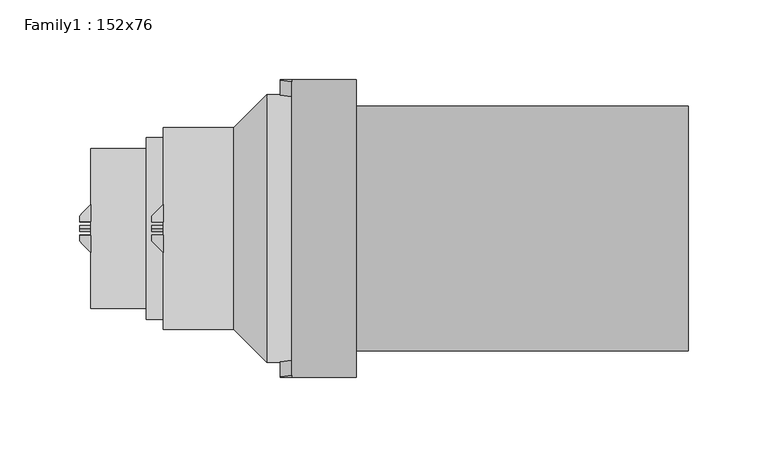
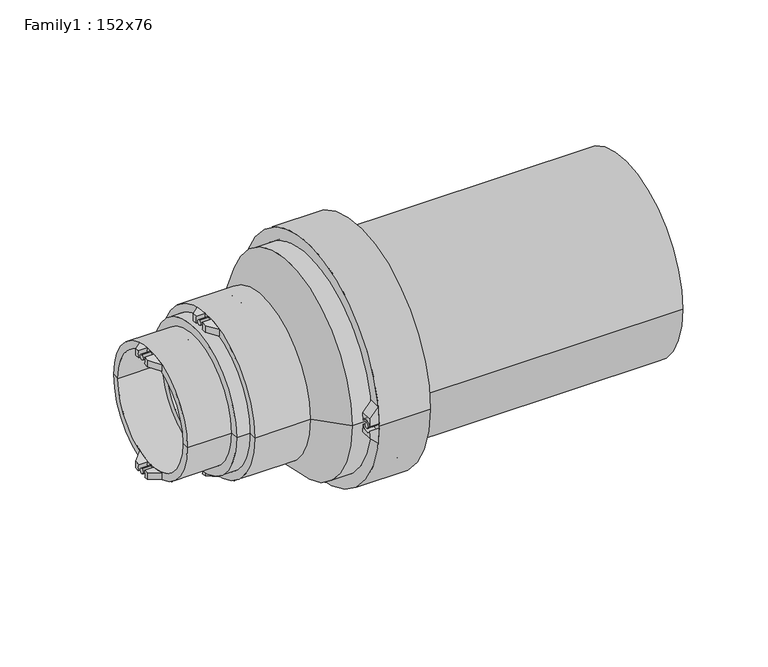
"""IFC4 building model written with IfcOpenShell, lengths in millimetres: proxy geometry, Family1 : 152x76."""

from ifc_helpers import new_model, si_unit, point, frame, frame_2d, origin, place, context, project, spatial, polyline, circle_curve, ellipse_curve, trimmed, segment, composite_curve, outline, extrude, source, transform, mapped, element, save
from ifc_brep_helpers import plane_surface, cylinder_surface, revolved_surface, advanced_brep


def family1_152x76_459f450e(model_context):
    return source(origin(), model_context, "Body", "SolidModel", [
        advanced_brep(
        [(-382.9, 4.082855, 44.663775), (-382.9, 4.3221448, 50.063775), (-382.9, 7.94, 49.6187354), (-382.9, 7.94, 44.1415779), (-375.8, 15.0, 47.9589668), (-375.8, 4.3221448, 50.063775), (-375.8, 4.082855, 44.663775), (-375.8, 15.0, 42.2672746)],
        [
            (0, 1, circle_curve(frame((-382.9, 0.0, 47.55), z_axis=(1.0, 0.0, 0.0), x_axis=(0.0, 0.0, -1.0)), 5.0)),
            (1, 2, circle_curve(frame((-382.9, 0.0, 0.0), z_axis=(-1.0, 0.0, 0.0), x_axis=(0.0, 0.0, -1.0)), 50.25)),
            (2, 3),
            (3, 0, circle_curve(frame((-382.9, 0.0, 0.0), z_axis=(1.0, 0.0, 0.0), x_axis=(0.0, 0.0, -1.0)), 44.85)),
            (4, 5, circle_curve(frame((-375.8, 0.0, 0.0), z_axis=(1.0, 0.0, 0.0), x_axis=(0.0, 0.0, -1.0)), 50.25)),
            (5, 6, circle_curve(frame((-375.8, 0.0, 47.55), z_axis=(-1.0, 0.0, 0.0), x_axis=(0.0, 0.0, -1.0)), 5.0)),
            (6, 7, circle_curve(frame((-375.8, 0.0, 0.0), z_axis=(-1.0, 0.0, 0.0), x_axis=(0.0, 0.0, -1.0)), 44.85)),
            (7, 4),
            (6, 0),
            (3, 7, ellipse_curve(frame((-390.8849858, 0.0, 0.0), z_axis=(-0.7051064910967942, 0.709101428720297, 0.0), x_axis=(0.7091014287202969, 0.7051064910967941, 0.0)), 63.6074133, 44.85)),
            (4, 2, ellipse_curve(frame((-390.8849858, 0.0, 0.0), z_axis=(0.7051064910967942, -0.709101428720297, 0.0), x_axis=(-0.7091014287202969, -0.7051064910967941, 0.0)), 71.265831, 50.25)),
            (1, 5),
        ],
        [
            plane_surface(frame((-382.9, 15.0, 47.9589668), z_axis=(-1.0, 0.0, 0.0), x_axis=(0.0, 0.0, -1.0))),
            plane_surface(frame((-375.8, 15.0, 47.9589668), z_axis=(1.0, 0.0, 0.0), x_axis=(0.0, 0.0, 1.0))),
            revolved_surface(polyline([(-345.7808781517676, 0.0, -44.85), (-435.9890934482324, 0.0, -44.85)]), (-375.8, 0.0, 0.0), (1.0, 0.0, 0.0)),
            cylinder_surface(frame((-375.8, 0.0, 0.0), z_axis=(-1.0, 0.0, 0.0), x_axis=(0.0, 0.0, -1.0)), 50.25),
            revolved_surface(polyline([(-382.9, 0.0, 42.55), (-375.8, 0.0, 42.55)]), (-375.8, 0.0, 47.55), (-1.0, 0.0, 0.0)),
            plane_surface(frame((-375.8, 15.0, -50.25), z_axis=(-0.7051064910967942, 0.709101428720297, 0.0), x_axis=(0.0, 0.0, 1.0))),
        ],
        [
            (0, [[1, 2, 3, 4]]),
            (1, [[5, 6, 7, 8]]),
            (2, [[-7, 9, -4, 10]]),
            (3, [[-5, 11, -2, 12]]),
            (4, [[-1, -9, -6, -12]]),
            (5, [[-3, -11, -8, -10]]),
        ],
    ),
        advanced_brep(
        [(-382.9, -4.3221448, 50.063775), (-382.9, -4.082855, 44.663775), (-382.9, -7.94, 44.1415779), (-382.9, -7.94, 49.6187354), (-375.8, -4.3221448, 50.063775), (-375.8, -15.0, 47.9589668), (-375.8, -15.0, 42.2672746), (-375.8, -4.082855, 44.663775)],
        [
            (0, 1, circle_curve(frame((-382.9, 0.0, 47.55), z_axis=(1.0, 0.0, 0.0), x_axis=(0.0, 0.0, -1.0)), 5.0)),
            (1, 2, circle_curve(frame((-382.9, 0.0, 0.0), z_axis=(1.0, 0.0, 0.0), x_axis=(0.0, 0.0, -1.0)), 44.85)),
            (2, 3),
            (3, 0, circle_curve(frame((-382.9, 0.0, 0.0), z_axis=(-1.0, 0.0, 0.0), x_axis=(0.0, 0.0, -1.0)), 50.25)),
            (4, 5, circle_curve(frame((-375.8, 0.0, 0.0), z_axis=(1.0, 0.0, 0.0), x_axis=(0.0, 0.0, -1.0)), 50.25)),
            (5, 6),
            (6, 7, circle_curve(frame((-375.8, 0.0, 0.0), z_axis=(-1.0, 0.0, 0.0), x_axis=(0.0, 0.0, -1.0)), 44.85)),
            (7, 4, circle_curve(frame((-375.8, 0.0, 47.55), z_axis=(-1.0, 0.0, 0.0), x_axis=(0.0, 0.0, -1.0)), 5.0)),
            (6, 2, ellipse_curve(frame((-390.8849858, 0.0, 0.0), z_axis=(-0.7051064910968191, -0.7091014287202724, 0.0), x_axis=(0.709101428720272, -0.7051064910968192, 0.0)), 63.6074133, 44.85)),
            (1, 7),
            (4, 0),
            (3, 5, ellipse_curve(frame((-390.8849858, 0.0, 0.0), z_axis=(0.7051064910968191, 0.7091014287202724, 0.0), x_axis=(-0.709101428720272, 0.7051064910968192, 0.0)), 71.265831, 50.25)),
        ],
        [
            plane_surface(frame((-382.9, 15.0, 47.9589668), z_axis=(-1.0, 0.0, 0.0), x_axis=(0.0, 0.0, -1.0))),
            plane_surface(frame((-375.8, 15.0, 47.9589668), z_axis=(1.0, 0.0, 0.0), x_axis=(0.0, 0.0, 1.0))),
            revolved_surface(polyline([(-345.7808781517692, 0.0, -44.85), (-435.9890934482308, 0.0, -44.85)]), (-375.8, 0.0, 0.0), (1.0, 0.0, 0.0)),
            cylinder_surface(frame((-375.8, 0.0, 0.0), z_axis=(-1.0, 0.0, 0.0), x_axis=(0.0, 0.0, -1.0)), 50.25),
            revolved_surface(polyline([(-382.9, 0.0, 42.55), (-375.8, 0.0, 42.55)]), (-375.8, 0.0, 47.55), (-1.0, 0.0, 0.0)),
            plane_surface(frame((-382.9, -7.94, -50.25), z_axis=(-0.7051064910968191, -0.7091014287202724, 0.0), x_axis=(0.0, 0.0, 1.0))),
        ],
        [
            (0, [[1, 2, 3, 4]]),
            (1, [[5, 6, 7, 8]]),
            (2, [[-7, 9, -2, 10]]),
            (3, [[-5, 11, -4, 12]]),
            (4, [[-1, -11, -8, -10]]),
            (5, [[-3, -9, -6, -12]]),
        ],
    ),
        advanced_brep(
        [(-382.9, 4.3221448, -50.063775), (-382.9, 4.082855, -44.663775), (-382.9, 7.94, -44.1415779), (-382.9, 7.94, -49.6187354), (-375.8, 4.3221448, -50.063775), (-375.8, 15.0, -47.9589668), (-375.8, 15.0, -42.2672746), (-375.8, 4.082855, -44.663775)],
        [
            (0, 1, circle_curve(frame((-382.9, 0.0, -47.55), z_axis=(1.0, 0.0, 0.0), x_axis=(0.0, 0.0, -1.0)), 5.0)),
            (1, 2, circle_curve(frame((-382.9, 0.0, 0.0), z_axis=(1.0, 0.0, 0.0), x_axis=(0.0, 0.0, -1.0)), 44.85)),
            (2, 3),
            (3, 0, circle_curve(frame((-382.9, 0.0, 0.0), z_axis=(-1.0, 0.0, 0.0), x_axis=(0.0, 0.0, -1.0)), 50.25)),
            (4, 5, circle_curve(frame((-375.8, 0.0, 0.0), z_axis=(1.0, 0.0, 0.0), x_axis=(0.0, 0.0, -1.0)), 50.25)),
            (5, 6),
            (6, 7, circle_curve(frame((-375.8, 0.0, 0.0), z_axis=(-1.0, 0.0, 0.0), x_axis=(0.0, 0.0, -1.0)), 44.85)),
            (7, 4, circle_curve(frame((-375.8, 0.0, -47.55), z_axis=(-1.0, 0.0, 0.0), x_axis=(0.0, 0.0, -1.0)), 5.0)),
            (6, 2, ellipse_curve(frame((-390.8849858, 0.0, 0.0), z_axis=(-0.7051064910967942, 0.709101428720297, 0.0), x_axis=(0.7091014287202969, 0.7051064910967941, 0.0)), 63.6074133, 44.85)),
            (1, 7),
            (4, 0),
            (3, 5, ellipse_curve(frame((-390.8849858, 0.0, 0.0), z_axis=(0.7051064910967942, -0.709101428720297, 0.0), x_axis=(-0.7091014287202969, -0.7051064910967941, 0.0)), 71.265831, 50.25)),
        ],
        [
            plane_surface(frame((-382.9, 15.0, 47.9589668), z_axis=(-1.0, 0.0, 0.0), x_axis=(0.0, 0.0, -1.0))),
            plane_surface(frame((-375.8, 15.0, 47.9589668), z_axis=(1.0, 0.0, 0.0), x_axis=(0.0, 0.0, 1.0))),
            revolved_surface(polyline([(-345.7808781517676, 0.0, -44.85), (-435.9890934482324, 0.0, -44.85)]), (-375.8, 0.0, 0.0), (1.0, 0.0, 0.0)),
            cylinder_surface(frame((-375.8, 0.0, 0.0), z_axis=(-1.0, 0.0, 0.0), x_axis=(0.0, 0.0, -1.0)), 50.25),
            revolved_surface(polyline([(-382.9, 0.0, -52.55), (-375.8, 0.0, -52.55)]), (-375.8, 0.0, -47.55), (-1.0, 0.0, 0.0)),
            plane_surface(frame((-375.8, 15.0, -50.25), z_axis=(-0.7051064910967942, 0.709101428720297, 0.0), x_axis=(0.0, 0.0, 1.0))),
        ],
        [
            (0, [[1, 2, 3, 4]]),
            (1, [[5, 6, 7, 8]]),
            (2, [[-7, 9, -2, 10]]),
            (3, [[-5, 11, -4, 12]]),
            (4, [[-1, -11, -8, -10]]),
            (5, [[-3, -9, -6, -12]]),
        ],
    ),
        advanced_brep(
        [(-382.9, -4.082855, -44.663775), (-382.9, -4.3221448, -50.063775), (-382.9, -7.94, -49.6187354), (-382.9, -7.94, -44.1415779), (-375.8, -15.0, -47.9589668), (-375.8, -4.3221448, -50.063775), (-375.8, -4.082855, -44.663775), (-375.8, -15.0, -42.2672746)],
        [
            (0, 1, circle_curve(frame((-382.9, 0.0, -47.55), z_axis=(1.0, 0.0, 0.0), x_axis=(0.0, 0.0, -1.0)), 5.0)),
            (1, 2, circle_curve(frame((-382.9, 0.0, 0.0), z_axis=(-1.0, 0.0, 0.0), x_axis=(0.0, 0.0, -1.0)), 50.25)),
            (2, 3),
            (3, 0, circle_curve(frame((-382.9, 0.0, 0.0), z_axis=(1.0, 0.0, 0.0), x_axis=(0.0, 0.0, -1.0)), 44.85)),
            (4, 5, circle_curve(frame((-375.8, 0.0, 0.0), z_axis=(1.0, 0.0, 0.0), x_axis=(0.0, 0.0, -1.0)), 50.25)),
            (5, 6, circle_curve(frame((-375.8, 0.0, -47.55), z_axis=(-1.0, 0.0, 0.0), x_axis=(0.0, 0.0, -1.0)), 5.0)),
            (6, 7, circle_curve(frame((-375.8, 0.0, 0.0), z_axis=(-1.0, 0.0, 0.0), x_axis=(0.0, 0.0, -1.0)), 44.85)),
            (7, 4),
            (6, 0),
            (3, 7, ellipse_curve(frame((-390.8849858, 0.0, 0.0), z_axis=(-0.7051064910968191, -0.7091014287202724, 0.0), x_axis=(0.709101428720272, -0.7051064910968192, 0.0)), 63.6074133, 44.85)),
            (4, 2, ellipse_curve(frame((-390.8849858, 0.0, 0.0), z_axis=(0.7051064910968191, 0.7091014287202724, 0.0), x_axis=(-0.709101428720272, 0.7051064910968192, 0.0)), 71.265831, 50.25)),
            (1, 5),
        ],
        [
            plane_surface(frame((-382.9, 15.0, 47.9589668), z_axis=(-1.0, 0.0, 0.0), x_axis=(0.0, 0.0, -1.0))),
            plane_surface(frame((-375.8, 15.0, 47.9589668), z_axis=(1.0, 0.0, 0.0), x_axis=(0.0, 0.0, 1.0))),
            revolved_surface(polyline([(-345.7808781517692, 0.0, -44.85), (-435.9890934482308, 0.0, -44.85)]), (-375.8, 0.0, 0.0), (1.0, 0.0, 0.0)),
            cylinder_surface(frame((-375.8, 0.0, 0.0), z_axis=(-1.0, 0.0, 0.0), x_axis=(0.0, 0.0, -1.0)), 50.25),
            revolved_surface(polyline([(-382.9, 0.0, -52.55), (-375.8, 0.0, -52.55)]), (-375.8, 0.0, -47.55), (-1.0, 0.0, 0.0)),
            plane_surface(frame((-382.9, -7.94, -50.25), z_axis=(-0.7051064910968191, -0.7091014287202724, 0.0), x_axis=(0.0, 0.0, 1.0))),
        ],
        [
            (0, [[1, 2, 3, 4]]),
            (1, [[5, 6, 7, 8]]),
            (2, [[-7, 9, -4, 10]]),
            (3, [[-5, 11, -2, 12]]),
            (4, [[-1, -9, -6, -12]]),
            (5, [[-3, -11, -8, -10]]),
        ],
    ),
        extrude(outline(composite_curve([segment(trimmed(circle_curve(frame_2d((0.0, 47.55)), 2.0), [point((0.0, 49.55))], [point((0.0, 45.55))], False, "CARTESIAN"), True, "CONTINUOUS"), segment(trimmed(circle_curve(frame_2d((0.0, 47.55)), 2.0), [point((0.0, 45.55))], [point((0.0, 49.55))], False, "CARTESIAN"), True, "CONTINUOUS")], self_intersect=False)), frame((-382.9, 0.0, 0.0), z_axis=(1.0, 0.0, 0.0), x_axis=(0.0, 1.0, 0.0)), (0.0, 0.0, 1.0), 7.1),
        extrude(outline(composite_curve([segment(trimmed(circle_curve(frame_2d((0.0, -47.55)), 2.0), [point((0.0, -45.55))], [point((0.0, -49.55))], False, "CARTESIAN"), True, "CONTINUOUS"), segment(trimmed(circle_curve(frame_2d((0.0, -47.55)), 2.0), [point((0.0, -49.55))], [point((0.0, -45.55))], False, "CARTESIAN"), True, "CONTINUOUS")], self_intersect=False)), frame((-382.9, 0.0, 0.0), z_axis=(1.0, 0.0, 0.0), x_axis=(0.0, 1.0, 0.0)), (0.0, 0.0, 1.0), 7.1),
        advanced_brep(
        [(-340.9, 57.15, 0.0), (-340.9, -57.15, 0.0), (-340.9, -50.4, 0.0), (-340.9, 50.4, 0.0), (-292.1, 57.15, 0.0), (-292.1, -57.15, 0.0), (-292.1, 50.65, 0.0), (-292.1, -50.65, 0.0), (-333.0, 50.65, 0.0), (-333.0, -50.65, 0.0), (-375.8, 44.7, 0.0), (-375.8, -44.7, 0.0), (-340.9, -44.7, 0.0), (-340.9, 44.7, 0.0), (-375.8, 50.4, 0.0), (-375.8, -50.4, 0.0), (-333.0, 38.1, 0.0), (-333.0, -38.1, 0.0), (-340.9, 38.1, 0.0), (-340.9, -38.1, 0.0)],
        [
            (0, 1, circle_curve(frame((-340.9, 0.0, 0.0), z_axis=(-1.0, 0.0, 0.0), x_axis=(0.0, -1.0, 0.0)), 57.15)),
            (1, 2),
            (2, 3, circle_curve(frame((-340.9, 0.0, 0.0), z_axis=(1.0, 0.0, 0.0), x_axis=(0.0, -1.0, 0.0)), 50.4)),
            (3, 0),
            (1, 0, circle_curve(frame((-340.9, 0.0, 0.0), z_axis=(-1.0, 0.0, 0.0), x_axis=(0.0, -1.0, 0.0)), 57.15)),
            (3, 2, circle_curve(frame((-340.9, 0.0, 0.0), z_axis=(1.0, 0.0, 0.0), x_axis=(0.0, -1.0, 0.0)), 50.4)),
            (4, 5, circle_curve(frame((-292.1, 0.0, 0.0), z_axis=(-1.0, 0.0, 0.0), x_axis=(0.0, -1.0, 0.0)), 57.15)),
            (5, 1),
            (0, 4),
            (5, 4, circle_curve(frame((-292.1, 0.0, 0.0), z_axis=(-1.0, 0.0, 0.0), x_axis=(0.0, -1.0, 0.0)), 57.15)),
            (6, 7, circle_curve(frame((-292.1, 0.0, 0.0), z_axis=(-1.0, 0.0, 0.0), x_axis=(0.0, -1.0, 0.0)), 50.65)),
            (7, 5),
            (4, 6),
            (7, 6, circle_curve(frame((-292.1, 0.0, 0.0), z_axis=(-1.0, 0.0, 0.0), x_axis=(0.0, -1.0, 0.0)), 50.65)),
            (8, 9, circle_curve(frame((-333.0, 0.0, 0.0), z_axis=(-1.0, 0.0, 0.0), x_axis=(0.0, -1.0, 0.0)), 50.65)),
            (9, 7),
            (6, 8),
            (9, 8, circle_curve(frame((-333.0, 0.0, 0.0), z_axis=(-1.0, 0.0, 0.0), x_axis=(0.0, -1.0, 0.0)), 50.65)),
            (10, 11, circle_curve(frame((-375.8, 0.0, 0.0), z_axis=(-1.0, 0.0, 0.0), x_axis=(0.0, -1.0, 0.0)), 44.7)),
            (11, 12),
            (12, 13, circle_curve(frame((-340.9, 0.0, 0.0), z_axis=(1.0, 0.0, 0.0), x_axis=(0.0, -1.0, 0.0)), 44.7)),
            (13, 10),
            (11, 10, circle_curve(frame((-375.8, 0.0, 0.0), z_axis=(-1.0, 0.0, 0.0), x_axis=(0.0, -1.0, 0.0)), 44.7)),
            (13, 12, circle_curve(frame((-340.9, 0.0, 0.0), z_axis=(1.0, 0.0, 0.0), x_axis=(0.0, -1.0, 0.0)), 44.7)),
            (14, 15, circle_curve(frame((-375.8, 0.0, 0.0), z_axis=(-1.0, 0.0, 0.0), x_axis=(0.0, -1.0, 0.0)), 50.4)),
            (15, 11),
            (10, 14),
            (15, 14, circle_curve(frame((-375.8, 0.0, 0.0), z_axis=(-1.0, 0.0, 0.0), x_axis=(0.0, -1.0, 0.0)), 50.4)),
            (2, 15),
            (14, 3),
            (16, 17, circle_curve(frame((-333.0, 0.0, 0.0), z_axis=(-1.0, 0.0, 0.0), x_axis=(0.0, -1.0, 0.0)), 38.1)),
            (17, 9),
            (8, 16),
            (17, 16, circle_curve(frame((-333.0, 0.0, 0.0), z_axis=(-1.0, 0.0, 0.0), x_axis=(0.0, -1.0, 0.0)), 38.1)),
            (18, 19, circle_curve(frame((-340.9, 0.0, 0.0), z_axis=(-1.0, 0.0, 0.0), x_axis=(0.0, -1.0, 0.0)), 38.1)),
            (19, 17),
            (16, 18),
            (19, 18, circle_curve(frame((-340.9, 0.0, 0.0), z_axis=(-1.0, 0.0, 0.0), x_axis=(0.0, -1.0, 0.0)), 38.1)),
            (12, 19),
            (18, 13),
        ],
        [
            plane_surface(frame((-340.9, 0.0, 0.0), z_axis=(-1.0, 0.0, 0.0), x_axis=(0.0, -1.0, 0.0))),
            cylinder_surface(frame((-1905.3018184, 0.0, 0.0), z_axis=(1.0, 0.0, 0.0), x_axis=(0.0, -1.0, 0.0)), 57.15),
            plane_surface(frame((-292.1, 0.0, 0.0), z_axis=(1.0, 0.0, 0.0), x_axis=(0.0, -1.0, 0.0))),
            revolved_surface(polyline([(-292.10000000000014, -50.65, 0.0), (-333.0, -50.65, 0.0)]), (-1905.3018184, 0.0, 0.0), (1.0, 0.0, 0.0)),
            revolved_surface(polyline([(-340.89999999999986, -44.7, 0.0), (-375.79999999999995, -44.7, 0.0)]), (-1905.3018184, 0.0, 0.0), (1.0, 0.0, 0.0)),
            plane_surface(frame((-375.8, 0.0, 0.0), z_axis=(-1.0, 0.0, 0.0), x_axis=(0.0, -1.0, 0.0))),
            cylinder_surface(frame((-1905.3018184, 0.0, 0.0), z_axis=(1.0, 0.0, 0.0), x_axis=(0.0, -1.0, 0.0)), 50.4),
            plane_surface(frame((-333.0, 0.0, 0.0), z_axis=(1.0, 0.0, 0.0), x_axis=(0.0, -1.0, 0.0))),
            revolved_surface(polyline([(-333.0, -38.1, 0.0), (-340.89999999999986, -38.1, 0.0)]), (-1905.3018184, 0.0, 0.0), (1.0, 0.0, 0.0)),
        ],
        [
            (0, [[1, 2, 3, 4]]),
            (0, [[5, -4, 6, -2]]),
            (1, [[7, 8, -1, 9]]),
            (1, [[10, -9, -5, -8]]),
            (2, [[11, 12, -7, 13]]),
            (2, [[14, -13, -10, -12]]),
            (3, [[15, 16, -11, 17]]),
            (3, [[18, -17, -14, -16]]),
            (4, [[19, 20, 21, 22]]),
            (4, [[23, -22, 24, -20]]),
            (5, [[25, 26, -19, 27]]),
            (5, [[28, -27, -23, -26]]),
            (6, [[-3, 29, -25, 30]]),
            (6, [[-6, -30, -28, -29]]),
            (7, [[31, 32, -15, 33]]),
            (7, [[34, -33, -18, -32]]),
            (8, [[35, 36, -31, 37]]),
            (8, [[38, -37, -34, -36]]),
            (0, [[-21, 39, -35, 40]]),
            (0, [[-24, -40, -38, -39]]),
        ],
    ),
        advanced_brep(
        [(-256.6, -84.3310253, 1.7890431), (-256.6, -93.6310253, 1.8851008), (-256.6, -93.3128014, 7.94), (-256.6, -83.9754661, 7.94), (-249.5, -92.4409136, 15.0), (-249.5, -93.6310253, 1.8851008), (-249.5, -84.3310253, 1.7890431), (-249.5, -83.005557, 15.0)],
        [
            (0, 1, circle_curve(frame((-256.6, -89.0, 0.0), z_axis=(1.0, 0.0, 0.0), x_axis=(0.0, 1.0, 0.0)), 5.0)),
            (1, 2, circle_curve(frame((-256.6, 0.0, 0.0), z_axis=(-1.0, 0.0, 0.0), x_axis=(0.0, 1.0, 0.0)), 93.65)),
            (2, 3),
            (3, 0, circle_curve(frame((-256.6, 0.0, 0.0), z_axis=(1.0, 0.0, 0.0), x_axis=(0.0, 1.0, 0.0)), 84.35)),
            (4, 5, circle_curve(frame((-249.5, 0.0, 0.0), z_axis=(1.0, 0.0, 0.0), x_axis=(0.0, 1.0, 0.0)), 93.65)),
            (5, 6, circle_curve(frame((-249.5, -89.0, 0.0), z_axis=(-1.0, 0.0, 0.0), x_axis=(0.0, 1.0, 0.0)), 5.0)),
            (6, 7, circle_curve(frame((-249.5, 0.0, 0.0), z_axis=(-1.0, 0.0, 0.0), x_axis=(0.0, 1.0, 0.0)), 84.35)),
            (7, 4),
            (6, 0),
            (3, 7, ellipse_curve(frame((-264.5849858, 0.0, 0.0), z_axis=(-0.705106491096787, 0.0, 0.7091014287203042), x_axis=(0.7091014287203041, 0.0, 0.705106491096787)), 119.6273202, 84.35)),
            (4, 2, ellipse_curve(frame((-264.5849858, 0.0, 0.0), z_axis=(0.705106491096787, 0.0, -0.7091014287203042), x_axis=(-0.7091014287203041, 0.0, -0.705106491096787)), 132.8168173, 93.65)),
            (1, 5),
        ],
        [
            plane_surface(frame((-256.6, -92.4409136, 15.0), z_axis=(-1.0, 0.0, 0.0), x_axis=(0.0, 1.0, 0.0))),
            plane_surface(frame((-249.5, -92.4409136, 15.0), z_axis=(1.0, 0.0, 0.0), x_axis=(0.0, -1.0, 0.0))),
            revolved_surface(polyline([(-179.75708213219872, 84.35, 0.0), (-349.41288946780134, 84.35, 0.0)]), (-249.5, 0.0, 0.0), (1.0, 0.0, 0.0)),
            cylinder_surface(frame((-249.5, 0.0, 0.0), z_axis=(-1.0, 0.0, 0.0), x_axis=(0.0, 1.0, 0.0)), 93.65),
            revolved_surface(polyline([(-256.6, -84.0, 0.0), (-249.5, -84.0, 0.0)]), (-249.5, -89.0, 0.0), (-1.0, 0.0, 0.0)),
            plane_surface(frame((-249.5, 93.65, 15.0), z_axis=(-0.705106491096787, 0.0, 0.7091014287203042), x_axis=(0.0, -1.0, 0.0))),
        ],
        [
            (0, [[1, 2, 3, 4]]),
            (1, [[5, 6, 7, 8]]),
            (2, [[-7, 9, -4, 10]]),
            (3, [[-5, 11, -2, 12]]),
            (4, [[-1, -9, -6, -12]]),
            (5, [[-3, -11, -8, -10]]),
        ],
    ),
        advanced_brep(
        [(-256.6, -93.6310253, -1.8851008), (-256.6, -84.3310253, -1.7890431), (-256.6, -83.9754661, -7.94), (-256.6, -93.3128014, -7.94), (-249.5, -93.6310253, -1.8851008), (-249.5, -92.4409136, -15.0), (-249.5, -83.005557, -15.0), (-249.5, -84.3310253, -1.7890431)],
        [
            (0, 1, circle_curve(frame((-256.6, -89.0, 0.0), z_axis=(1.0, 0.0, 0.0), x_axis=(0.0, 1.0, 0.0)), 5.0)),
            (1, 2, circle_curve(frame((-256.6, 0.0, 0.0), z_axis=(1.0, 0.0, 0.0), x_axis=(0.0, 1.0, 0.0)), 84.35)),
            (2, 3),
            (3, 0, circle_curve(frame((-256.6, 0.0, 0.0), z_axis=(-1.0, 0.0, 0.0), x_axis=(0.0, 1.0, 0.0)), 93.65)),
            (4, 5, circle_curve(frame((-249.5, 0.0, 0.0), z_axis=(1.0, 0.0, 0.0), x_axis=(0.0, 1.0, 0.0)), 93.65)),
            (5, 6),
            (6, 7, circle_curve(frame((-249.5, 0.0, 0.0), z_axis=(-1.0, 0.0, 0.0), x_axis=(0.0, 1.0, 0.0)), 84.35)),
            (7, 4, circle_curve(frame((-249.5, -89.0, 0.0), z_axis=(-1.0, 0.0, 0.0), x_axis=(0.0, 1.0, 0.0)), 5.0)),
            (6, 2, ellipse_curve(frame((-264.5849858, 0.0, 0.0), z_axis=(-0.7051064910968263, 0.0, -0.7091014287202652), x_axis=(0.7091014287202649, 0.0, -0.7051064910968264)), 119.6273202, 84.35)),
            (1, 7),
            (4, 0),
            (3, 5, ellipse_curve(frame((-264.5849858, 0.0, 0.0), z_axis=(0.7051064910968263, 0.0, 0.7091014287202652), x_axis=(-0.7091014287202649, 0.0, 0.7051064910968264)), 132.8168173, 93.65)),
        ],
        [
            plane_surface(frame((-256.6, -92.4409136, 15.0), z_axis=(-1.0, 0.0, 0.0), x_axis=(0.0, 1.0, 0.0))),
            plane_surface(frame((-249.5, -92.4409136, 15.0), z_axis=(1.0, 0.0, 0.0), x_axis=(0.0, -1.0, 0.0))),
            revolved_surface(polyline([(-179.75708213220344, 84.35, 0.0), (-349.4128894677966, 84.35, 0.0)]), (-249.5, 0.0, 0.0), (1.0, 0.0, 0.0)),
            cylinder_surface(frame((-249.5, 0.0, 0.0), z_axis=(-1.0, 0.0, 0.0), x_axis=(0.0, 1.0, 0.0)), 93.65),
            revolved_surface(polyline([(-256.6, -84.0, 0.0), (-249.5, -84.0, 0.0)]), (-249.5, -89.0, 0.0), (-1.0, 0.0, 0.0)),
            plane_surface(frame((-256.6, 93.65, -7.94), z_axis=(-0.7051064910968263, 0.0, -0.7091014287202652), x_axis=(0.0, -1.0, 0.0))),
        ],
        [
            (0, [[1, 2, 3, 4]]),
            (1, [[5, 6, 7, 8]]),
            (2, [[-7, 9, -2, 10]]),
            (3, [[-5, 11, -4, 12]]),
            (4, [[-1, -11, -8, -10]]),
            (5, [[-3, -9, -6, -12]]),
        ],
    ),
        advanced_brep(
        [(-256.6, 93.6310253, 1.8851008), (-256.6, 84.3310253, 1.7890431), (-256.6, 83.9754661, 7.94), (-256.6, 93.3128014, 7.94), (-249.5, 93.6310253, 1.8851008), (-249.5, 92.4409136, 15.0), (-249.5, 83.005557, 15.0), (-249.5, 84.3310253, 1.7890431)],
        [
            (0, 1, circle_curve(frame((-256.6, 89.0, 0.0), z_axis=(1.0, 0.0, 0.0), x_axis=(0.0, 1.0, 0.0)), 5.0)),
            (1, 2, circle_curve(frame((-256.6, 0.0, 0.0), z_axis=(1.0, 0.0, 0.0), x_axis=(0.0, 1.0, 0.0)), 84.35)),
            (2, 3),
            (3, 0, circle_curve(frame((-256.6, 0.0, 0.0), z_axis=(-1.0, 0.0, 0.0), x_axis=(0.0, 1.0, 0.0)), 93.65)),
            (4, 5, circle_curve(frame((-249.5, 0.0, 0.0), z_axis=(1.0, 0.0, 0.0), x_axis=(0.0, 1.0, 0.0)), 93.65)),
            (5, 6),
            (6, 7, circle_curve(frame((-249.5, 0.0, 0.0), z_axis=(-1.0, 0.0, 0.0), x_axis=(0.0, 1.0, 0.0)), 84.35)),
            (7, 4, circle_curve(frame((-249.5, 89.0, 0.0), z_axis=(-1.0, 0.0, 0.0), x_axis=(0.0, 1.0, 0.0)), 5.0)),
            (6, 2, ellipse_curve(frame((-264.5849858, 0.0, 0.0), z_axis=(-0.705106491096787, 0.0, 0.7091014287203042), x_axis=(0.7091014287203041, 0.0, 0.705106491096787)), 119.6273202, 84.35)),
            (1, 7),
            (4, 0),
            (3, 5, ellipse_curve(frame((-264.5849858, 0.0, 0.0), z_axis=(0.705106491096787, 0.0, -0.7091014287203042), x_axis=(-0.7091014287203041, 0.0, -0.705106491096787)), 132.8168173, 93.65)),
        ],
        [
            plane_surface(frame((-256.6, -92.4409136, 15.0), z_axis=(-1.0, 0.0, 0.0), x_axis=(0.0, 1.0, 0.0))),
            plane_surface(frame((-249.5, -92.4409136, 15.0), z_axis=(1.0, 0.0, 0.0), x_axis=(0.0, -1.0, 0.0))),
            revolved_surface(polyline([(-179.75708213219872, 84.35, 0.0), (-349.41288946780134, 84.35, 0.0)]), (-249.5, 0.0, 0.0), (1.0, 0.0, 0.0)),
            cylinder_surface(frame((-249.5, 0.0, 0.0), z_axis=(-1.0, 0.0, 0.0), x_axis=(0.0, 1.0, 0.0)), 93.65),
            revolved_surface(polyline([(-256.6, 94.0, 0.0), (-249.5, 94.0, 0.0)]), (-249.5, 89.0, 0.0), (-1.0, 0.0, 0.0)),
            plane_surface(frame((-249.5, 93.65, 15.0), z_axis=(-0.705106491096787, 0.0, 0.7091014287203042), x_axis=(0.0, -1.0, 0.0))),
        ],
        [
            (0, [[1, 2, 3, 4]]),
            (1, [[5, 6, 7, 8]]),
            (2, [[-7, 9, -2, 10]]),
            (3, [[-5, 11, -4, 12]]),
            (4, [[-1, -11, -8, -10]]),
            (5, [[-3, -9, -6, -12]]),
        ],
    ),
        advanced_brep(
        [(-256.6, 84.3310253, -1.7890431), (-256.6, 93.6310253, -1.8851008), (-256.6, 93.3128014, -7.94), (-256.6, 83.9754661, -7.94), (-249.5, 92.4409136, -15.0), (-249.5, 93.6310253, -1.8851008), (-249.5, 84.3310253, -1.7890431), (-249.5, 83.005557, -15.0)],
        [
            (0, 1, circle_curve(frame((-256.6, 89.0, 0.0), z_axis=(1.0, 0.0, 0.0), x_axis=(0.0, 1.0, 0.0)), 5.0)),
            (1, 2, circle_curve(frame((-256.6, 0.0, 0.0), z_axis=(-1.0, 0.0, 0.0), x_axis=(0.0, 1.0, 0.0)), 93.65)),
            (2, 3),
            (3, 0, circle_curve(frame((-256.6, 0.0, 0.0), z_axis=(1.0, 0.0, 0.0), x_axis=(0.0, 1.0, 0.0)), 84.35)),
            (4, 5, circle_curve(frame((-249.5, 0.0, 0.0), z_axis=(1.0, 0.0, 0.0), x_axis=(0.0, 1.0, 0.0)), 93.65)),
            (5, 6, circle_curve(frame((-249.5, 89.0, 0.0), z_axis=(-1.0, 0.0, 0.0), x_axis=(0.0, 1.0, 0.0)), 5.0)),
            (6, 7, circle_curve(frame((-249.5, 0.0, 0.0), z_axis=(-1.0, 0.0, 0.0), x_axis=(0.0, 1.0, 0.0)), 84.35)),
            (7, 4),
            (6, 0),
            (3, 7, ellipse_curve(frame((-264.5849858, 0.0, 0.0), z_axis=(-0.7051064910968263, 0.0, -0.7091014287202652), x_axis=(0.7091014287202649, 0.0, -0.7051064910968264)), 119.6273202, 84.35)),
            (4, 2, ellipse_curve(frame((-264.5849858, 0.0, 0.0), z_axis=(0.7051064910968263, 0.0, 0.7091014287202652), x_axis=(-0.7091014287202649, 0.0, 0.7051064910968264)), 132.8168173, 93.65)),
            (1, 5),
        ],
        [
            plane_surface(frame((-256.6, -92.4409136, 15.0), z_axis=(-1.0, 0.0, 0.0), x_axis=(0.0, 1.0, 0.0))),
            plane_surface(frame((-249.5, -92.4409136, 15.0), z_axis=(1.0, 0.0, 0.0), x_axis=(0.0, -1.0, 0.0))),
            revolved_surface(polyline([(-179.75708213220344, 84.35, 0.0), (-349.4128894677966, 84.35, 0.0)]), (-249.5, 0.0, 0.0), (1.0, 0.0, 0.0)),
            cylinder_surface(frame((-249.5, 0.0, 0.0), z_axis=(-1.0, 0.0, 0.0), x_axis=(0.0, 1.0, 0.0)), 93.65),
            revolved_surface(polyline([(-256.6, 94.0, 0.0), (-249.5, 94.0, 0.0)]), (-249.5, 89.0, 0.0), (-1.0, 0.0, 0.0)),
            plane_surface(frame((-256.6, 93.65, -7.94), z_axis=(-0.7051064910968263, 0.0, -0.7091014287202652), x_axis=(0.0, -1.0, 0.0))),
        ],
        [
            (0, [[1, 2, 3, 4]]),
            (1, [[5, 6, 7, 8]]),
            (2, [[-7, 9, -4, 10]]),
            (3, [[-5, 11, -2, 12]]),
            (4, [[-1, -9, -6, -12]]),
            (5, [[-3, -11, -8, -10]]),
        ],
    ),
        extrude(outline(composite_curve([segment(trimmed(circle_curve(frame_2d((-89.0, 0.0)), 2.0), [point((-91.0, 0.0))], [point((-87.0, 0.0))], False, "CARTESIAN"), True, "CONTINUOUS"), segment(trimmed(circle_curve(frame_2d((-89.0, 0.0)), 2.0), [point((-87.0, 0.0))], [point((-91.0, 0.0))], False, "CARTESIAN"), True, "CONTINUOUS")], self_intersect=False)), frame((-256.6, 0.0, 0.0), z_axis=(1.0, 0.0, 0.0), x_axis=(0.0, 1.0, 0.0)), (0.0, 0.0, 1.0), 7.1),
        extrude(outline(composite_curve([segment(trimmed(circle_curve(frame_2d((89.0, 0.0)), 2.0), [point((87.0, 0.0))], [point((91.0, 0.0))], False, "CARTESIAN"), True, "CONTINUOUS"), segment(trimmed(circle_curve(frame_2d((89.0, 0.0)), 2.0), [point((91.0, 0.0))], [point((87.0, 0.0))], False, "CARTESIAN"), True, "CONTINUOUS")], self_intersect=False)), frame((-256.6, 0.0, 0.0), z_axis=(1.0, 0.0, 0.0), x_axis=(0.0, 1.0, 0.0)), (0.0, 0.0, 1.0), 7.1),
        advanced_brep(
        [(-214.5, -77.0, 0.0), (-214.5, 77.0, 0.0), (-214.5, 84.2, 0.0), (-214.5, -84.2, 0.0), (-209.0, -77.0, 0.0), (-209.0, 77.0, 0.0), (-209.0, -93.8, 0.0), (-209.0, 93.8, 0.0), (-249.5, -93.8, 0.0), (-249.5, 93.8, 0.0), (-249.5, -84.2, 0.0), (-249.5, 84.2, 0.0)],
        [
            (0, 1, circle_curve(frame((-214.5, 0.0, 0.0), z_axis=(1.0, 0.0, 0.0), x_axis=(0.0, 1.0, 0.0)), 77.0)),
            (1, 2),
            (2, 3, circle_curve(frame((-214.5, 0.0, 0.0), z_axis=(-1.0, 0.0, 0.0), x_axis=(0.0, 1.0, 0.0)), 84.2)),
            (3, 0),
            (1, 0, circle_curve(frame((-214.5, 0.0, 0.0), z_axis=(1.0, 0.0, 0.0), x_axis=(0.0, 1.0, 0.0)), 77.0)),
            (3, 2, circle_curve(frame((-214.5, 0.0, 0.0), z_axis=(-1.0, 0.0, 0.0), x_axis=(0.0, 1.0, 0.0)), 84.2)),
            (4, 5, circle_curve(frame((-209.0, 0.0, 0.0), z_axis=(1.0, 0.0, 0.0), x_axis=(0.0, 1.0, 0.0)), 77.0)),
            (5, 1),
            (0, 4),
            (5, 4, circle_curve(frame((-209.0, 0.0, 0.0), z_axis=(1.0, 0.0, 0.0), x_axis=(0.0, 1.0, 0.0)), 77.0)),
            (6, 7, circle_curve(frame((-209.0, 0.0, 0.0), z_axis=(1.0, 0.0, 0.0), x_axis=(0.0, 1.0, 0.0)), 93.8)),
            (7, 5),
            (4, 6),
            (7, 6, circle_curve(frame((-209.0, 0.0, 0.0), z_axis=(1.0, 0.0, 0.0), x_axis=(0.0, 1.0, 0.0)), 93.8)),
            (8, 9, circle_curve(frame((-249.5, 0.0, 0.0), z_axis=(1.0, 0.0, 0.0), x_axis=(0.0, 1.0, 0.0)), 93.8)),
            (9, 7),
            (6, 8),
            (9, 8, circle_curve(frame((-249.5, 0.0, 0.0), z_axis=(1.0, 0.0, 0.0), x_axis=(0.0, 1.0, 0.0)), 93.8)),
            (10, 11, circle_curve(frame((-249.5, 0.0, 0.0), z_axis=(1.0, 0.0, 0.0), x_axis=(0.0, 1.0, 0.0)), 84.2)),
            (11, 9),
            (8, 10),
            (11, 10, circle_curve(frame((-249.5, 0.0, 0.0), z_axis=(1.0, 0.0, 0.0), x_axis=(0.0, 1.0, 0.0)), 84.2)),
            (2, 11),
            (10, 3),
        ],
        [
            plane_surface(frame((-214.5, 0.0, 0.0), z_axis=(-1.0, 0.0, 0.0), x_axis=(0.0, 1.0, 0.0))),
            revolved_surface(polyline([(-214.5, 77.0, 0.0), (-209.0, 77.0, 0.0)]), (-2763.4826241, 0.0, 0.0), (-1.0, 0.0, 0.0)),
            plane_surface(frame((-209.0, 0.0, 0.0), z_axis=(1.0, 0.0, 0.0), x_axis=(0.0, 1.0, 0.0))),
            cylinder_surface(frame((-2763.4826241, 0.0, 0.0), z_axis=(-1.0, 0.0, 0.0), x_axis=(0.0, 1.0, 0.0)), 93.8),
            plane_surface(frame((-249.5, 0.0, 0.0), z_axis=(-1.0, 0.0, 0.0), x_axis=(0.0, 1.0, 0.0))),
            revolved_surface(polyline([(-249.5, 84.2, 0.0), (-214.5, 84.2, 0.0)]), (-2763.4826241, 0.0, 0.0), (-1.0, 0.0, 0.0)),
        ],
        [
            (0, [[1, 2, 3, 4]]),
            (0, [[5, -4, 6, -2]]),
            (1, [[7, 8, -1, 9]]),
            (1, [[10, -9, -5, -8]]),
            (2, [[11, 12, -7, 13]]),
            (2, [[14, -13, -10, -12]]),
            (3, [[15, 16, -11, 17]]),
            (3, [[18, -17, -14, -16]]),
            (4, [[19, 20, -15, 21]]),
            (4, [[22, -21, -18, -20]]),
            (5, [[-3, 23, -19, 24]]),
            (5, [[-6, -24, -22, -23]]),
        ],
    ),
        advanced_brep(
        [(-337.4, 3.9898603, 57.4115277), (-337.4, 4.1846644, 63.1615277), (-337.4, 7.94, 62.800051), (-337.4, 7.94, 56.9996395), (-330.3, 15.0, 61.4970731), (-330.3, 4.1846644, 63.1615277), (-330.3, 3.9898603, 57.4115277), (-330.3, 15.0, 55.5608)],
        [
            (0, 1, circle_curve(frame((-337.4, 0.0, 60.425), z_axis=(1.0, 0.0, 0.0), x_axis=(0.0, 0.0, -1.0)), 5.0)),
            (1, 2, circle_curve(frame((-337.4, 0.0, 0.0), z_axis=(-1.0, 0.0, 0.0), x_axis=(0.0, 0.0, -1.0)), 63.3)),
            (2, 3),
            (3, 0, circle_curve(frame((-337.4, 0.0, 0.0), z_axis=(1.0, 0.0, 0.0), x_axis=(0.0, 0.0, -1.0)), 57.55)),
            (4, 5, circle_curve(frame((-330.3, 0.0, 0.0), z_axis=(1.0, 0.0, 0.0), x_axis=(0.0, 0.0, -1.0)), 63.3)),
            (5, 6, circle_curve(frame((-330.3, 0.0, 60.425), z_axis=(-1.0, 0.0, 0.0), x_axis=(0.0, 0.0, -1.0)), 5.0)),
            (6, 7, circle_curve(frame((-330.3, 0.0, 0.0), z_axis=(-1.0, 0.0, 0.0), x_axis=(0.0, 0.0, -1.0)), 57.55)),
            (7, 4),
            (6, 0),
            (3, 7, ellipse_curve(frame((-345.3849858, 0.0, 0.0), z_axis=(-0.7051064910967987, 0.7091014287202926, 0.0), x_axis=(0.7091014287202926, 0.7051064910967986, 0.0)), 81.618877, 57.55)),
            (4, 2, ellipse_curve(frame((-345.3849858, 0.0, 0.0), z_axis=(0.7051064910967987, -0.7091014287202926, 0.0), x_axis=(-0.7091014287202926, -0.7051064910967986, 0.0)), 89.7736736, 63.3)),
            (1, 5),
        ],
        [
            plane_surface(frame((-337.4, 15.0, 61.4970731), z_axis=(-1.0, 0.0, 0.0), x_axis=(0.0, 0.0, -1.0))),
            plane_surface(frame((-330.3, 15.0, 61.4970731), z_axis=(1.0, 0.0, 0.0), x_axis=(0.0, 0.0, 1.0))),
            revolved_surface(polyline([(-287.50892350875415, 0.0, -57.55), (-403.2610480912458, 0.0, -57.55)]), (-330.3, 0.0, 0.0), (1.0000000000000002, 0.0, 0.0)),
            cylinder_surface(frame((-330.3, 0.0, 0.0), z_axis=(-1.0000000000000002, 0.0, 0.0), x_axis=(0.0, 0.0, -1.0)), 63.3),
            revolved_surface(polyline([(-337.4, 0.0, 55.425), (-330.3, 0.0, 55.425)]), (-330.3, 0.0, 60.425), (-1.0000000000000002, 0.0, 0.0)),
            plane_surface(frame((-330.3, 15.0, -63.3), z_axis=(-0.7051064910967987, 0.7091014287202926, 0.0), x_axis=(0.0, 0.0, 1.0))),
        ],
        [
            (0, [[1, 2, 3, 4]]),
            (1, [[5, 6, 7, 8]]),
            (2, [[-7, 9, -4, 10]]),
            (3, [[-5, 11, -2, 12]]),
            (4, [[-1, -9, -6, -12]]),
            (5, [[-3, -11, -8, -10]]),
        ],
    ),
        advanced_brep(
        [(-337.4, -4.1846644, 63.1615277), (-337.4, -3.9898603, 57.4115277), (-337.4, -7.94, 56.9996395), (-337.4, -7.94, 62.800051), (-330.3, -4.1846644, 63.1615277), (-330.3, -15.0, 61.4970731), (-330.3, -15.0, 55.5608), (-330.3, -3.9898603, 57.4115277)],
        [
            (0, 1, circle_curve(frame((-337.4, 0.0, 60.425), z_axis=(1.0, 0.0, 0.0), x_axis=(0.0, 0.0, -1.0)), 5.0)),
            (1, 2, circle_curve(frame((-337.4, 0.0, 0.0), z_axis=(1.0, 0.0, 0.0), x_axis=(0.0, 0.0, -1.0)), 57.55)),
            (2, 3),
            (3, 0, circle_curve(frame((-337.4, 0.0, 0.0), z_axis=(-1.0, 0.0, 0.0), x_axis=(0.0, 0.0, -1.0)), 63.3)),
            (4, 5, circle_curve(frame((-330.3, 0.0, 0.0), z_axis=(1.0, 0.0, 0.0), x_axis=(0.0, 0.0, -1.0)), 63.3)),
            (5, 6),
            (6, 7, circle_curve(frame((-330.3, 0.0, 0.0), z_axis=(-1.0, 0.0, 0.0), x_axis=(0.0, 0.0, -1.0)), 57.55)),
            (7, 4, circle_curve(frame((-330.3, 0.0, 60.425), z_axis=(-1.0, 0.0, 0.0), x_axis=(0.0, 0.0, -1.0)), 5.0)),
            (6, 2, ellipse_curve(frame((-345.3849858, 0.0, 0.0), z_axis=(-0.7051064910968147, -0.7091014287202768, 0.0), x_axis=(0.7091014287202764, -0.7051064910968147, 0.0)), 81.618877, 57.55)),
            (1, 7),
            (4, 0),
            (3, 5, ellipse_curve(frame((-345.3849858, 0.0, 0.0), z_axis=(0.7051064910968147, 0.7091014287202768, 0.0), x_axis=(-0.7091014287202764, 0.7051064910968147, 0.0)), 89.7736736, 63.3)),
        ],
        [
            plane_surface(frame((-337.4, 15.0, 61.4970731), z_axis=(-1.0, 0.0, 0.0), x_axis=(0.0, 0.0, -1.0))),
            plane_surface(frame((-330.3, 15.0, 61.4970731), z_axis=(1.0, 0.0, 0.0), x_axis=(0.0, 0.0, 1.0))),
            revolved_surface(polyline([(-287.50892350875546, 0.0, -57.55), (-403.2610480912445, 0.0, -57.55)]), (-330.3, 0.0, 0.0), (1.0000000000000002, 0.0, 0.0)),
            cylinder_surface(frame((-330.3, 0.0, 0.0), z_axis=(-1.0000000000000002, 0.0, 0.0), x_axis=(0.0, 0.0, -1.0)), 63.3),
            revolved_surface(polyline([(-337.4, 0.0, 55.425), (-330.3, 0.0, 55.425)]), (-330.3, 0.0, 60.425), (-1.0000000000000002, 0.0, 0.0)),
            plane_surface(frame((-337.4, -7.94, -63.3), z_axis=(-0.7051064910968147, -0.7091014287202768, 0.0), x_axis=(0.0, 0.0, 1.0))),
        ],
        [
            (0, [[1, 2, 3, 4]]),
            (1, [[5, 6, 7, 8]]),
            (2, [[-7, 9, -2, 10]]),
            (3, [[-5, 11, -4, 12]]),
            (4, [[-1, -11, -8, -10]]),
            (5, [[-3, -9, -6, -12]]),
        ],
    ),
        advanced_brep(
        [(-337.4, 4.1846644, -63.1615277), (-337.4, 3.9898603, -57.4115277), (-337.4, 7.94, -56.9996395), (-337.4, 7.94, -62.800051), (-330.3, 4.1846644, -63.1615277), (-330.3, 15.0, -61.4970731), (-330.3, 15.0, -55.5608), (-330.3, 3.9898603, -57.4115277)],
        [
            (0, 1, circle_curve(frame((-337.4, 0.0, -60.425), z_axis=(1.0, 0.0, 0.0), x_axis=(0.0, 0.0, -1.0)), 5.0)),
            (1, 2, circle_curve(frame((-337.4, 0.0, 0.0), z_axis=(1.0, 0.0, 0.0), x_axis=(0.0, 0.0, -1.0)), 57.55)),
            (2, 3),
            (3, 0, circle_curve(frame((-337.4, 0.0, 0.0), z_axis=(-1.0, 0.0, 0.0), x_axis=(0.0, 0.0, -1.0)), 63.3)),
            (4, 5, circle_curve(frame((-330.3, 0.0, 0.0), z_axis=(1.0, 0.0, 0.0), x_axis=(0.0, 0.0, -1.0)), 63.3)),
            (5, 6),
            (6, 7, circle_curve(frame((-330.3, 0.0, 0.0), z_axis=(-1.0, 0.0, 0.0), x_axis=(0.0, 0.0, -1.0)), 57.55)),
            (7, 4, circle_curve(frame((-330.3, 0.0, -60.425), z_axis=(-1.0, 0.0, 0.0), x_axis=(0.0, 0.0, -1.0)), 5.0)),
            (6, 2, ellipse_curve(frame((-345.3849858, 0.0, 0.0), z_axis=(-0.7051064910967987, 0.7091014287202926, 0.0), x_axis=(0.7091014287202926, 0.7051064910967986, 0.0)), 81.618877, 57.55)),
            (1, 7),
            (4, 0),
            (3, 5, ellipse_curve(frame((-345.3849858, 0.0, 0.0), z_axis=(0.7051064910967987, -0.7091014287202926, 0.0), x_axis=(-0.7091014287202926, -0.7051064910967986, 0.0)), 89.7736736, 63.3)),
        ],
        [
            plane_surface(frame((-337.4, 15.0, 61.4970731), z_axis=(-1.0, 0.0, 0.0), x_axis=(0.0, 0.0, -1.0))),
            plane_surface(frame((-330.3, 15.0, 61.4970731), z_axis=(1.0, 0.0, 0.0), x_axis=(0.0, 0.0, 1.0))),
            revolved_surface(polyline([(-287.50892350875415, 0.0, -57.55), (-403.2610480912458, 0.0, -57.55)]), (-330.3, 0.0, 0.0), (1.0000000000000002, 0.0, 0.0)),
            cylinder_surface(frame((-330.3, 0.0, 0.0), z_axis=(-1.0000000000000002, 0.0, 0.0), x_axis=(0.0, 0.0, -1.0)), 63.3),
            revolved_surface(polyline([(-337.4, 0.0, -65.425), (-330.3, 0.0, -65.425)]), (-330.3, 0.0, -60.425), (-1.0000000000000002, 0.0, 0.0)),
            plane_surface(frame((-330.3, 15.0, -63.3), z_axis=(-0.7051064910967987, 0.7091014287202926, 0.0), x_axis=(0.0, 0.0, 1.0))),
        ],
        [
            (0, [[1, 2, 3, 4]]),
            (1, [[5, 6, 7, 8]]),
            (2, [[-7, 9, -2, 10]]),
            (3, [[-5, 11, -4, 12]]),
            (4, [[-1, -11, -8, -10]]),
            (5, [[-3, -9, -6, -12]]),
        ],
    ),
        advanced_brep(
        [(-337.4, -3.9898603, -57.4115277), (-337.4, -4.1846644, -63.1615277), (-337.4, -7.94, -62.800051), (-337.4, -7.94, -56.9996395), (-330.3, -15.0, -61.4970731), (-330.3, -4.1846644, -63.1615277), (-330.3, -3.9898603, -57.4115277), (-330.3, -15.0, -55.5608)],
        [
            (0, 1, circle_curve(frame((-337.4, 0.0, -60.425), z_axis=(1.0, 0.0, 0.0), x_axis=(0.0, 0.0, -1.0)), 5.0)),
            (1, 2, circle_curve(frame((-337.4, 0.0, 0.0), z_axis=(-1.0, 0.0, 0.0), x_axis=(0.0, 0.0, -1.0)), 63.3)),
            (2, 3),
            (3, 0, circle_curve(frame((-337.4, 0.0, 0.0), z_axis=(1.0, 0.0, 0.0), x_axis=(0.0, 0.0, -1.0)), 57.55)),
            (4, 5, circle_curve(frame((-330.3, 0.0, 0.0), z_axis=(1.0, 0.0, 0.0), x_axis=(0.0, 0.0, -1.0)), 63.3)),
            (5, 6, circle_curve(frame((-330.3, 0.0, -60.425), z_axis=(-1.0, 0.0, 0.0), x_axis=(0.0, 0.0, -1.0)), 5.0)),
            (6, 7, circle_curve(frame((-330.3, 0.0, 0.0), z_axis=(-1.0, 0.0, 0.0), x_axis=(0.0, 0.0, -1.0)), 57.55)),
            (7, 4),
            (6, 0),
            (3, 7, ellipse_curve(frame((-345.3849858, 0.0, 0.0), z_axis=(-0.7051064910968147, -0.7091014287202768, 0.0), x_axis=(0.7091014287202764, -0.7051064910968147, 0.0)), 81.618877, 57.55)),
            (4, 2, ellipse_curve(frame((-345.3849858, 0.0, 0.0), z_axis=(0.7051064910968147, 0.7091014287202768, 0.0), x_axis=(-0.7091014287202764, 0.7051064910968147, 0.0)), 89.7736736, 63.3)),
            (1, 5),
        ],
        [
            plane_surface(frame((-337.4, 15.0, 61.4970731), z_axis=(-1.0, 0.0, 0.0), x_axis=(0.0, 0.0, -1.0))),
            plane_surface(frame((-330.3, 15.0, 61.4970731), z_axis=(1.0, 0.0, 0.0), x_axis=(0.0, 0.0, 1.0))),
            revolved_surface(polyline([(-287.50892350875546, 0.0, -57.55), (-403.2610480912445, 0.0, -57.55)]), (-330.3, 0.0, 0.0), (1.0000000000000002, 0.0, 0.0)),
            cylinder_surface(frame((-330.3, 0.0, 0.0), z_axis=(-1.0000000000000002, 0.0, 0.0), x_axis=(0.0, 0.0, -1.0)), 63.3),
            revolved_surface(polyline([(-337.4, 0.0, -65.425), (-330.3, 0.0, -65.425)]), (-330.3, 0.0, -60.425), (-1.0000000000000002, 0.0, 0.0)),
            plane_surface(frame((-337.4, -7.94, -63.3), z_axis=(-0.7051064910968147, -0.7091014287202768, 0.0), x_axis=(0.0, 0.0, 1.0))),
        ],
        [
            (0, [[1, 2, 3, 4]]),
            (1, [[5, 6, 7, 8]]),
            (2, [[-7, 9, -4, 10]]),
            (3, [[-5, 11, -2, 12]]),
            (4, [[-1, -9, -6, -12]]),
            (5, [[-3, -11, -8, -10]]),
        ],
    ),
        extrude(outline(composite_curve([segment(trimmed(circle_curve(frame_2d((0.0, 60.425)), 2.0), [point((0.0, 62.425))], [point((0.0, 58.425))], False, "CARTESIAN"), True, "CONTINUOUS"), segment(trimmed(circle_curve(frame_2d((0.0, 60.425)), 2.0), [point((0.0, 58.425))], [point((0.0, 62.425))], False, "CARTESIAN"), True, "CONTINUOUS")], self_intersect=False)), frame((-337.4, 0.0, 0.0), z_axis=(1.0, 0.0, 0.0), x_axis=(0.0, 1.0, 0.0)), (0.0, 0.0, 1.0), 7.1),
        extrude(outline(composite_curve([segment(trimmed(circle_curve(frame_2d((0.0, -60.425)), 2.0), [point((0.0, -58.425))], [point((0.0, -62.425))], False, "CARTESIAN"), True, "CONTINUOUS"), segment(trimmed(circle_curve(frame_2d((0.0, -60.425)), 2.0), [point((0.0, -62.425))], [point((0.0, -58.425))], False, "CARTESIAN"), True, "CONTINUOUS")], self_intersect=False)), frame((-337.4, 0.0, 0.0), z_axis=(1.0, 0.0, 0.0), x_axis=(0.0, 1.0, 0.0)), (0.0, 0.0, 1.0), 7.1),
        advanced_brep(
        [(-265.3, 84.15, 0.0), (-265.3, -84.15, 0.0), (-285.9, -63.45, 0.0), (-285.9, 63.45, 0.0), (-214.5, 84.15, 0.0), (-214.5, -84.15, 0.0), (-214.5, 76.2, 0.0), (-214.5, -76.2, 0.0), (-261.9, 76.2, 0.0), (-261.9, -76.2, 0.0), (-330.3, 57.4, 0.0), (-330.3, -57.4, 0.0), (-292.1, -57.4, 0.0), (-292.1, 57.4, 0.0), (-330.3, 63.45, 0.0), (-330.3, -63.45, 0.0), (-287.3, 50.8, 0.0), (-287.3, -50.8, 0.0), (-292.1, 50.8, 0.0), (-292.1, -50.8, 0.0)],
        [
            (0, 1, circle_curve(frame((-265.3, 0.0, 0.0), z_axis=(-1.0, 0.0, 0.0), x_axis=(0.0, -1.0000000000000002, 0.0)), 84.15)),
            (1, 2),
            (2, 3, circle_curve(frame((-285.9, 0.0, 0.0), z_axis=(1.0, 0.0, 0.0), x_axis=(0.0, -1.0000000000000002, 0.0)), 63.45)),
            (3, 0),
            (1, 0, circle_curve(frame((-265.3, 0.0, 0.0), z_axis=(-1.0, 0.0, 0.0), x_axis=(0.0, -1.0000000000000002, 0.0)), 84.15)),
            (3, 2, circle_curve(frame((-285.9, 0.0, 0.0), z_axis=(1.0, 0.0, 0.0), x_axis=(0.0, -1.0000000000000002, 0.0)), 63.45)),
            (4, 5, circle_curve(frame((-214.5, 0.0, 0.0), z_axis=(-1.0, 0.0, 0.0), x_axis=(0.0, -1.0000000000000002, 0.0)), 84.15)),
            (5, 1),
            (0, 4),
            (5, 4, circle_curve(frame((-214.5, 0.0, 0.0), z_axis=(-1.0, 0.0, 0.0), x_axis=(0.0, -1.0000000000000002, 0.0)), 84.15)),
            (6, 7, circle_curve(frame((-214.5, 0.0, 0.0), z_axis=(-1.0, 0.0, 0.0), x_axis=(0.0, -1.0000000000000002, 0.0)), 76.2)),
            (7, 5),
            (4, 6),
            (7, 6, circle_curve(frame((-214.5, 0.0, 0.0), z_axis=(-1.0, 0.0, 0.0), x_axis=(0.0, -1.0000000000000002, 0.0)), 76.2)),
            (8, 9, circle_curve(frame((-261.9, 0.0, 0.0), z_axis=(-1.0, 0.0, 0.0), x_axis=(0.0, -1.0000000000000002, 0.0)), 76.2)),
            (9, 7),
            (6, 8),
            (9, 8, circle_curve(frame((-261.9, 0.0, 0.0), z_axis=(-1.0, 0.0, 0.0), x_axis=(0.0, -1.0000000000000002, 0.0)), 76.2)),
            (10, 11, circle_curve(frame((-330.3, 0.0, 0.0), z_axis=(-1.0, 0.0, 0.0), x_axis=(0.0, -1.0000000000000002, 0.0)), 57.4)),
            (11, 12),
            (12, 13, circle_curve(frame((-292.1, 0.0, 0.0), z_axis=(1.0, 0.0, 0.0), x_axis=(0.0, -1.0000000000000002, 0.0)), 57.4)),
            (13, 10),
            (11, 10, circle_curve(frame((-330.3, 0.0, 0.0), z_axis=(-1.0, 0.0, 0.0), x_axis=(0.0, -1.0000000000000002, 0.0)), 57.4)),
            (13, 12, circle_curve(frame((-292.1, 0.0, 0.0), z_axis=(1.0, 0.0, 0.0), x_axis=(0.0, -1.0000000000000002, 0.0)), 57.4)),
            (14, 15, circle_curve(frame((-330.3, 0.0, 0.0), z_axis=(-1.0, 0.0, 0.0), x_axis=(0.0, -1.0000000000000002, 0.0)), 63.45)),
            (15, 11),
            (10, 14),
            (15, 14, circle_curve(frame((-330.3, 0.0, 0.0), z_axis=(-1.0, 0.0, 0.0), x_axis=(0.0, -1.0000000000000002, 0.0)), 63.45)),
            (2, 15),
            (14, 3),
            (16, 17, circle_curve(frame((-287.3, 0.0, 0.0), z_axis=(-1.0, 0.0, 0.0), x_axis=(0.0, -1.0000000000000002, 0.0)), 50.8)),
            (17, 9),
            (8, 16),
            (17, 16, circle_curve(frame((-287.3, 0.0, 0.0), z_axis=(-1.0, 0.0, 0.0), x_axis=(0.0, -1.0000000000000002, 0.0)), 50.8)),
            (18, 19, circle_curve(frame((-292.1, 0.0, 0.0), z_axis=(-1.0, 0.0, 0.0), x_axis=(0.0, -1.0000000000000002, 0.0)), 50.8)),
            (19, 17),
            (16, 18),
            (19, 18, circle_curve(frame((-292.1, 0.0, 0.0), z_axis=(-1.0, 0.0, 0.0), x_axis=(0.0, -1.0000000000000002, 0.0)), 50.8)),
            (12, 19),
            (18, 13),
        ],
        [
            revolved_surface(polyline([(-285.9, -63.45, 0.0), (-265.3, -84.15, 0.0)]), (-1859.8018184, 0.0, 0.0), (1.0000000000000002, 0.0, 0.0)),
            cylinder_surface(frame((-1859.8018184, 0.0, 0.0), z_axis=(1.0000000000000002, 0.0, 0.0), x_axis=(0.0, -1.0000000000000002, 0.0)), 84.15),
            plane_surface(frame((-214.5, 0.0, 0.0), z_axis=(1.0, 0.0, 0.0), x_axis=(0.0, -1.0, 0.0))),
            revolved_surface(polyline([(-214.4999999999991, -76.20000000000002, 0.0), (-261.89999999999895, -76.20000000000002, 0.0)]), (-1859.8018184, 0.0, 0.0), (1.0000000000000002, 0.0, 0.0)),
            revolved_surface(polyline([(-292.0999999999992, -57.40000000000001, 0.0), (-330.2999999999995, -57.40000000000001, 0.0)]), (-1859.8018184, 0.0, 0.0), (1.0000000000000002, 0.0, 0.0)),
            plane_surface(frame((-330.3, 0.0, 0.0), z_axis=(-1.0, 0.0, 0.0), x_axis=(0.0, -1.0, 0.0))),
            cylinder_surface(frame((-1859.8018184, 0.0, 0.0), z_axis=(1.0000000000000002, 0.0, 0.0), x_axis=(0.0, -1.0000000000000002, 0.0)), 63.45),
            revolved_surface(polyline([(-261.9, -76.2, 0.0), (-287.3, -50.8, 0.0)]), (-1859.8018184, 0.0, 0.0), (1.0000000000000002, 0.0, 0.0)),
            revolved_surface(polyline([(-287.29999999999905, -50.80000000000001, 0.0), (-292.0999999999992, -50.80000000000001, 0.0)]), (-1859.8018184, 0.0, 0.0), (1.0000000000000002, 0.0, 0.0)),
            plane_surface(frame((-292.1, 0.0, 0.0), z_axis=(-1.0, 0.0, 0.0), x_axis=(0.0, -1.0, 0.0))),
        ],
        [
            (0, [[1, 2, 3, 4]]),
            (0, [[5, -4, 6, -2]]),
            (1, [[7, 8, -1, 9]]),
            (1, [[10, -9, -5, -8]]),
            (2, [[11, 12, -7, 13]]),
            (2, [[14, -13, -10, -12]]),
            (3, [[15, 16, -11, 17]]),
            (3, [[18, -17, -14, -16]]),
            (4, [[19, 20, 21, 22]]),
            (4, [[23, -22, 24, -20]]),
            (5, [[25, 26, -19, 27]]),
            (5, [[28, -27, -23, -26]]),
            (6, [[-3, 29, -25, 30]]),
            (6, [[-6, -30, -28, -29]]),
            (7, [[31, 32, -15, 33]]),
            (7, [[34, -33, -18, -32]]),
            (8, [[35, 36, -31, 37]]),
            (8, [[38, -37, -34, -36]]),
            (9, [[-21, 39, -35, 40]]),
            (9, [[-24, -40, -38, -39]]),
        ],
    ),
        advanced_brep(
        [(0.0, -77.0, 0.0), (0.0, 77.0, 0.0), (0.0, 0.0, 0.0), (-214.5, -77.0, 0.0), (-214.5, 77.0, 0.0), (-214.5, 0.0, 0.0)],
        [
            (0, 1, circle_curve(frame((0.0, 0.0, 0.0), z_axis=(1.0, 0.0, 0.0), x_axis=(0.0, 1.0, 0.0)), 77.0)),
            (1, 2),
            (2, 0),
            (1, 0, circle_curve(frame((0.0, 0.0, 0.0), z_axis=(1.0, 0.0, 0.0), x_axis=(0.0, 1.0, 0.0)), 77.0)),
            (3, 4, circle_curve(frame((-214.5, 0.0, 0.0), z_axis=(1.0, 0.0, 0.0), x_axis=(0.0, 1.0, 0.0)), 77.0)),
            (4, 1),
            (0, 3),
            (4, 3, circle_curve(frame((-214.5, 0.0, 0.0), z_axis=(1.0, 0.0, 0.0), x_axis=(0.0, 1.0, 0.0)), 77.0)),
            (5, 4),
            (3, 5),
        ],
        [
            plane_surface(frame((0.0, 0.0, 0.0), z_axis=(1.0, 0.0, 0.0), x_axis=(0.0, 1.0, 0.0))),
            cylinder_surface(frame((25.0, 0.0, 0.0), z_axis=(-1.0, 0.0, 0.0), x_axis=(0.0, 1.0, 0.0)), 77.0),
            plane_surface(frame((-214.5, 0.0, 0.0), z_axis=(-1.0, 0.0, 0.0), x_axis=(0.0, 1.0, 0.0))),
        ],
        [
            (0, [[1, 2, 3]]),
            (0, [[4, -3, -2]]),
            (1, [[5, 6, -1, 7]]),
            (1, [[8, -7, -4, -6]]),
            (2, [[9, -5, 10]]),
            (2, [[-10, -8, -9]]),
        ],
    ),
    ])


if __name__ == "__main__":
    model = new_model("IFC4")
    model_context = context("Model", 3, world=origin())
    ifc_project = project(units=[si_unit("LENGTHUNIT", "METRE", prefix="MILLI")], contexts=[model_context])
    site = spatial("IfcSite", under=ifc_project)
    building = spatial("IfcBuilding", under=site)
    placement = place(None, origin())
    family1_152x76_shape = family1_152x76_459f450e(model_context)
    element("IfcBuildingElementProxy", 1, Name="Family1 : 152x76", ObjectType="Family1 : 152x76", at=placement, inside=building, context=model_context, shape_type="MappedRepresentation", body=[
        mapped(family1_152x76_shape, transform((0.0, 0.0, 0.0), x_axis=(1.0, 0.0, 0.0), y_axis=(0.0, 1.0, 0.0), z_axis=(0.0, 0.0, 1.0))),
    ])
    save(model, "model.ifc")
